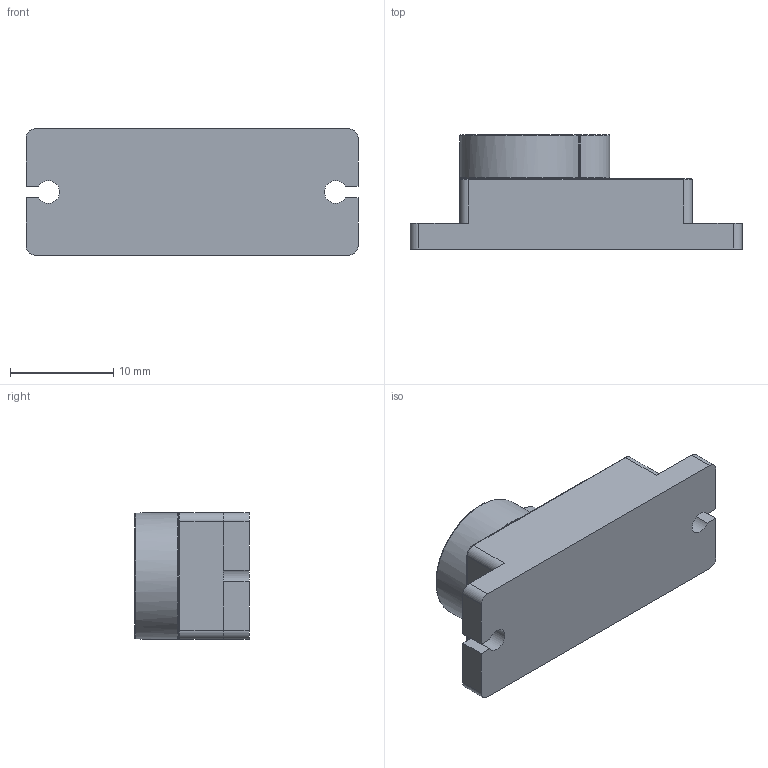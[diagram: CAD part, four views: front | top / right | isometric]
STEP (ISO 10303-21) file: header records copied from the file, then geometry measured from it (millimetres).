
FILE_DESCRIPTION(/* description */ ('STEP AP242 Edition 2','CAx-IF Rec.Pracs.---Representation and Presentation of Product Manufacturing Information (PMI)---4.0---2014-10-13','CAx-IF Rec.Pracs.---3D Tessellated Geometry---0.4---2014-09-14','2;1','CAx-IF Rec.Pracs.---User Defined Attributes---1.5---2016-08-15'),/* implementation_level */ '2;1');
FILE_NAME(/* name */ '877cf1fa-7247-43f3-a803-e05becba9891',/* time_stamp */ '2026-11-04T05:15:26Z',/* author */ (''),/* organization */ (''),/* preprocessor_version */ 'ST-DEVELOPER v20',/* originating_system */ 'ONSHAPE BY PTC INC, 1.223',/* authorisation */ ' ');
FILE_SCHEMA (('AP242_MANAGED_MODEL_BASED_3D_ENGINEERING_MIM_LF { 1 0 10303 442 3 1 4 }'));
Length unit declared in the file: metre
Products named in the file (1): SG90 - Micro Servo 9g - Tower Pro.1_Pe‡a
Bounding box: 32.1 x 11.05 x 12.2 mm (x, y, z)
Volume: 2583 mm3; surface area: 1548.1 mm2
Topology: 1 solids, 1 shells, 92 faces, 228 edges, 139 vertices
Faces by surface type: cylinder 31, plane 28, bspline 18, torus 13, sphere 2
Full cylindrical faces by diameter (mm): 1.6 x1, 5 x1
Entity records: 3756 total; most frequent: CARTESIAN_POINT 1660, ORIENTED_EDGE 444, DIRECTION 412, EDGE_CURVE 222, AXIS2_PLACEMENT_3D 157, VERTEX_POINT 137, LINE 98, VECTOR 98
